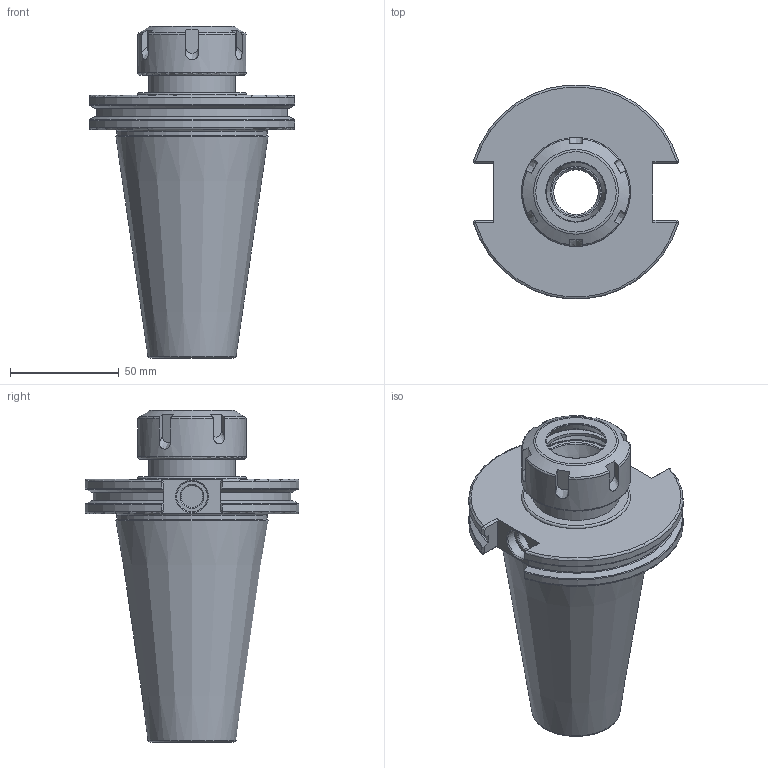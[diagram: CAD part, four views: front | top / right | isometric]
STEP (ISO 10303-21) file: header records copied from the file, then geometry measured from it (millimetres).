
FILE_DESCRIPTION(/* description */ (''),/* implementation_level */ '2;1');
FILE_NAME(/* name */ 'CAT50-ER32-2''''_asm1.prt.stp',/* time_stamp */ '2020-04-11T17:39:30+08:00',/* author */ (''),/* organization */ (''),/* preprocessor_version */ 'ST-DEVELOPER v16',/* originating_system */ 'SIEMENS PLM Software NX 10.0',/* authorisation */ '');
FILE_SCHEMA (('CONFIG_CONTROL_DESIGN'));
Length unit declared in the file: millimetre
Products named in the file (3): CAT50-ER32-2''; ER32UM压帽; CAT50-ER32-2''_asm1
Assembly tree (2 placements, depth 2):
  CAT50-ER32-2''_asm1
    ER32UM压帽
    CAT50-ER32-2''
Bounding box: 94.4 x 98.07 x 152.4 mm (x, y, z)
Volume: 349540.6 mm3; surface area: 56363.9 mm2
Topology: 2 solids, 2 shells, 143 faces, 382 edges, 254 vertices
Faces by surface type: plane 70, cylinder 24, torus 23, cone 20, bspline 6
Full cylindrical faces by diameter (mm): 10 x1, 14 x1, 20.5 x1, 22.225 x2, 23.5 x1, 26.19 x1, 27.17 x1, 32.7 x1, 36 x1, 38 x1, 38.376 x1, 40 x1, 40.5 x1, 50 x2, 69 x1
Entity records: 5110 total; most frequent: CARTESIAN_POINT 1463, ORIENTED_EDGE 702, DIRECTION 658, EDGE_CURVE 351, AXIS2_PLACEMENT_3D 260, VERTEX_POINT 250, EDGE_LOOP 185, ADVANCED_FACE 143
